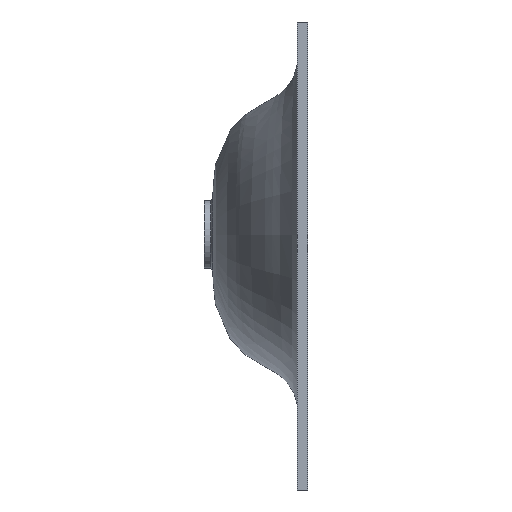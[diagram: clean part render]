
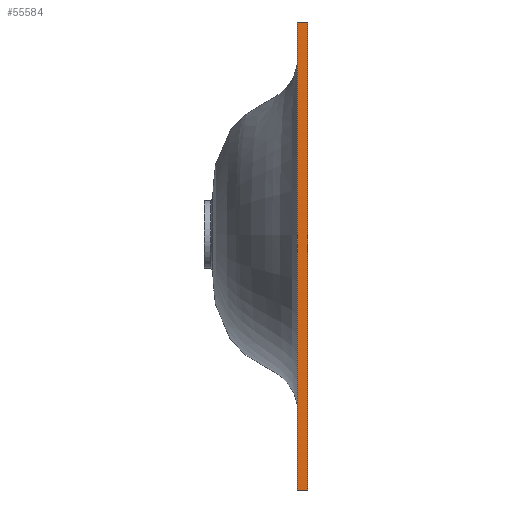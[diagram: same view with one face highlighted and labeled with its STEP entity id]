
A CAD part, left-side view. The second image highlights one B-rep face of the part: STEP entity #55584.
In plain terms, the highlighted planar face has unit normal (-1, 0, 0).
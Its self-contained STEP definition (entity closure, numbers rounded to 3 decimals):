
#3706 = CARTESIAN_POINT ( 'NONE',  ( -162140.974, 12., -300. ) ) ;
#4586 = DIRECTION ( 'NONE',  ( 1., 0., 0. ) ) ;
#7857 = VECTOR ( 'NONE', #43645, 1000. ) ;
#8709 = EDGE_CURVE ( 'NONE', #28315, #66702, #31541, .T. ) ;
#8893 = ORIENTED_EDGE ( 'NONE', *, *, #8709, .T. ) ;
#9619 = VERTEX_POINT ( 'NONE', #62815 ) ;
#11026 = VERTEX_POINT ( 'NONE', #40739 ) ;
#13495 = VECTOR ( 'NONE', #48569, 1000. ) ;
#14725 = CARTESIAN_POINT ( 'NONE',  ( -162140.974, 12., 0. ) ) ;
#15989 = LINE ( 'NONE', #65201, #13495 ) ;
#22011 = EDGE_CURVE ( 'NONE', #28315, #9619, #66755, .T. ) ;
#24739 = DIRECTION ( 'NONE',  ( 0., 0., 1. ) ) ;
#25764 = DIRECTION ( 'NONE',  ( 0., -1., 0. ) ) ;
#26100 = CARTESIAN_POINT ( 'NONE',  ( -162140.974, 12., -300. ) ) ;
#28315 = VERTEX_POINT ( 'NONE', #26100 ) ;
#28362 = CARTESIAN_POINT ( 'NONE',  ( -162140.974, 12., 0. ) ) ;
#28983 = EDGE_CURVE ( 'NONE', #9619, #11026, #15989, .T. ) ;
#31541 = LINE ( 'NONE', #3706, #47038 ) ;
#35570 = AXIS2_PLACEMENT_3D ( 'NONE', #14725, #4586, #65359 ) ;
#37822 = ORIENTED_EDGE ( 'NONE', *, *, #28983, .F. ) ;
#40739 = CARTESIAN_POINT ( 'NONE',  ( -162140.974, 0., 250. ) ) ;
#41799 = ORIENTED_EDGE ( 'NONE', *, *, #57787, .T. ) ;
#42570 = CARTESIAN_POINT ( 'NONE',  ( -162140.974, 0., 0. ) ) ;
#43113 = CARTESIAN_POINT ( 'NONE',  ( -162140.974, 0., -300. ) ) ;
#43645 = DIRECTION ( 'NONE',  ( 0., 0., 1. ) ) ;
#47038 = VECTOR ( 'NONE', #25764, 1000. ) ;
#48569 = DIRECTION ( 'NONE',  ( 0., -1., 0. ) ) ;
#49360 = VECTOR ( 'NONE', #24739, 1000. ) ;
#54163 = PLANE ( 'NONE',  #35570 ) ;
#55584 = ADVANCED_FACE ( 'NONE', ( #70797 ), #54163, .F. ) ;
#57787 = EDGE_CURVE ( 'NONE', #66702, #11026, #65710, .T. ) ;
#62784 = EDGE_LOOP ( 'NONE', ( #41799, #37822, #68223, #8893 ) ) ;
#62815 = CARTESIAN_POINT ( 'NONE',  ( -162140.974, 12., 250. ) ) ;
#65201 = CARTESIAN_POINT ( 'NONE',  ( -162140.974, 12., 250. ) ) ;
#65359 = DIRECTION ( 'NONE',  ( 0., 0., -1. ) ) ;
#65710 = LINE ( 'NONE', #42570, #7857 ) ;
#66702 = VERTEX_POINT ( 'NONE', #43113 ) ;
#66755 = LINE ( 'NONE', #28362, #49360 ) ;
#68223 = ORIENTED_EDGE ( 'NONE', *, *, #22011, .F. ) ;
#70797 = FACE_OUTER_BOUND ( 'NONE', #62784, .T. ) ;
